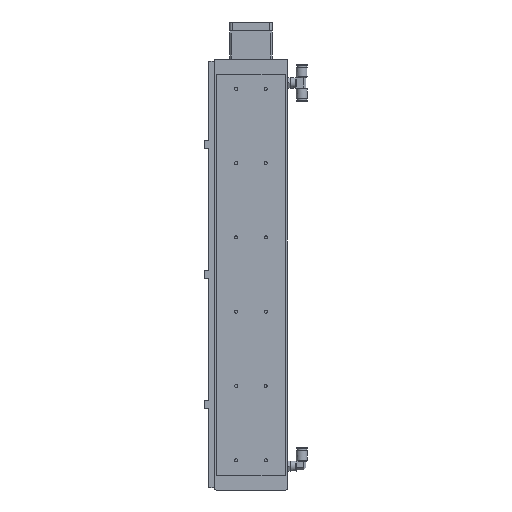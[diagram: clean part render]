
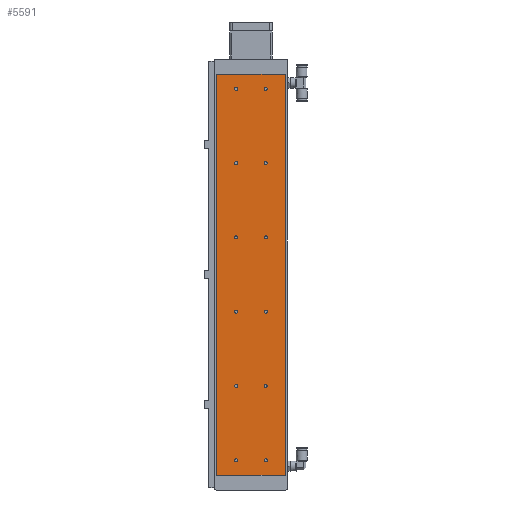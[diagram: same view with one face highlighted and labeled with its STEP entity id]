
A CAD part, front view. The second image highlights one B-rep face of the part: STEP entity #5591.
In plain terms, the highlighted planar face has unit normal (0, -1, 0).
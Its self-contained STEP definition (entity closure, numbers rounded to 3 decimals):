
#4419=CARTESIAN_POINT('',(22.067,0.0,40.));
#4420=VERTEX_POINT('',#4419);
#4421=CARTESIAN_POINT('',(20.,0.0,40.));
#4422=DIRECTION('',(0.0,1.0,0.0));
#4423=DIRECTION('',(1.0,0.0,0.0));
#4424=AXIS2_PLACEMENT_3D('',#4421,#4422,#4423);
#4425=CIRCLE('',#4424,2.067);
#4426=EDGE_CURVE('',#4420,#4420,#4425,.T.);
#4477=CARTESIAN_POINT('',(-17.933,0.0,40.));
#4478=VERTEX_POINT('',#4477);
#4479=CARTESIAN_POINT('',(-20.,0.0,40.));
#4480=DIRECTION('',(0.0,1.0,0.0));
#4481=DIRECTION('',(1.0,0.0,0.0));
#4482=AXIS2_PLACEMENT_3D('',#4479,#4480,#4481);
#4483=CIRCLE('',#4482,2.067);
#4484=EDGE_CURVE('',#4478,#4478,#4483,.T.);
#4535=CARTESIAN_POINT('',(22.067,0.0,540.0));
#4536=VERTEX_POINT('',#4535);
#4537=CARTESIAN_POINT('',(20.,0.0,540.0));
#4538=DIRECTION('',(0.0,1.0,0.0));
#4539=DIRECTION('',(1.0,0.0,0.0));
#4540=AXIS2_PLACEMENT_3D('',#4537,#4538,#4539);
#4541=CIRCLE('',#4540,2.067);
#4542=EDGE_CURVE('',#4536,#4536,#4541,.T.);
#4593=CARTESIAN_POINT('',(-17.933,0.0,540.0));
#4594=VERTEX_POINT('',#4593);
#4595=CARTESIAN_POINT('',(-20.,0.0,540.0));
#4596=DIRECTION('',(0.0,1.0,0.0));
#4597=DIRECTION('',(1.0,0.0,0.0));
#4598=AXIS2_PLACEMENT_3D('',#4595,#4596,#4597);
#4599=CIRCLE('',#4598,2.067);
#4600=EDGE_CURVE('',#4594,#4594,#4599,.T.);
#4651=CARTESIAN_POINT('',(-17.933,0.0,140.));
#4652=VERTEX_POINT('',#4651);
#4653=CARTESIAN_POINT('',(-20.,0.0,140.));
#4654=DIRECTION('',(0.0,1.0,0.0));
#4655=DIRECTION('',(1.0,0.0,0.0));
#4656=AXIS2_PLACEMENT_3D('',#4653,#4654,#4655);
#4657=CIRCLE('',#4656,2.067);
#4658=EDGE_CURVE('',#4652,#4652,#4657,.T.);
#4709=CARTESIAN_POINT('',(22.067,0.0,140.));
#4710=VERTEX_POINT('',#4709);
#4711=CARTESIAN_POINT('',(20.,0.0,140.));
#4712=DIRECTION('',(0.0,1.0,0.0));
#4713=DIRECTION('',(1.0,0.0,0.0));
#4714=AXIS2_PLACEMENT_3D('',#4711,#4712,#4713);
#4715=CIRCLE('',#4714,2.067);
#4716=EDGE_CURVE('',#4710,#4710,#4715,.T.);
#4767=CARTESIAN_POINT('',(-17.933,0.0,440.0));
#4768=VERTEX_POINT('',#4767);
#4769=CARTESIAN_POINT('',(-20.,0.0,440.0));
#4770=DIRECTION('',(0.0,1.0,0.0));
#4771=DIRECTION('',(1.0,0.0,0.0));
#4772=AXIS2_PLACEMENT_3D('',#4769,#4770,#4771);
#4773=CIRCLE('',#4772,2.067);
#4774=EDGE_CURVE('',#4768,#4768,#4773,.T.);
#4825=CARTESIAN_POINT('',(22.067,0.0,440.0));
#4826=VERTEX_POINT('',#4825);
#4827=CARTESIAN_POINT('',(20.,0.0,440.0));
#4828=DIRECTION('',(0.0,1.0,0.0));
#4829=DIRECTION('',(1.0,0.0,0.0));
#4830=AXIS2_PLACEMENT_3D('',#4827,#4828,#4829);
#4831=CIRCLE('',#4830,2.067);
#4832=EDGE_CURVE('',#4826,#4826,#4831,.T.);
#4883=CARTESIAN_POINT('',(-17.933,0.0,340.0));
#4884=VERTEX_POINT('',#4883);
#4885=CARTESIAN_POINT('',(-20.,0.0,340.0));
#4886=DIRECTION('',(0.0,1.0,0.0));
#4887=DIRECTION('',(1.0,0.0,0.0));
#4888=AXIS2_PLACEMENT_3D('',#4885,#4886,#4887);
#4889=CIRCLE('',#4888,2.067);
#4890=EDGE_CURVE('',#4884,#4884,#4889,.T.);
#4941=CARTESIAN_POINT('',(-17.933,0.0,240.0));
#4942=VERTEX_POINT('',#4941);
#4943=CARTESIAN_POINT('',(-20.,0.0,240.0));
#4944=DIRECTION('',(0.0,1.0,0.0));
#4945=DIRECTION('',(1.0,0.0,0.0));
#4946=AXIS2_PLACEMENT_3D('',#4943,#4944,#4945);
#4947=CIRCLE('',#4946,2.067);
#4948=EDGE_CURVE('',#4942,#4942,#4947,.T.);
#4999=CARTESIAN_POINT('',(22.067,0.0,240.0));
#5000=VERTEX_POINT('',#4999);
#5001=CARTESIAN_POINT('',(20.,0.0,240.0));
#5002=DIRECTION('',(0.0,1.0,0.0));
#5003=DIRECTION('',(1.0,0.0,0.0));
#5004=AXIS2_PLACEMENT_3D('',#5001,#5002,#5003);
#5005=CIRCLE('',#5004,2.067);
#5006=EDGE_CURVE('',#5000,#5000,#5005,.T.);
#5057=CARTESIAN_POINT('',(22.067,0.0,340.0));
#5058=VERTEX_POINT('',#5057);
#5059=CARTESIAN_POINT('',(20.,0.0,340.0));
#5060=DIRECTION('',(0.0,1.0,0.0));
#5061=DIRECTION('',(1.0,0.0,0.0));
#5062=AXIS2_PLACEMENT_3D('',#5059,#5060,#5061);
#5063=CIRCLE('',#5062,2.067);
#5064=EDGE_CURVE('',#5058,#5058,#5063,.T.);
#5466=CARTESIAN_POINT('',(46.,0.0,20.));
#5467=VERTEX_POINT('',#5466);
#5474=CARTESIAN_POINT('',(-46.,0.0,20.));
#5475=VERTEX_POINT('',#5474);
#5476=CARTESIAN_POINT('',(-46.,0.0,20.));
#5477=DIRECTION('',(1.0,0.0,0.0));
#5478=VECTOR('',#5477,92.);
#5479=LINE('',#5476,#5478);
#5480=EDGE_CURVE('',#5475,#5467,#5479,.T.);
#5497=CARTESIAN_POINT('',(-46.,0.0,560.0));
#5498=VERTEX_POINT('',#5497);
#5505=CARTESIAN_POINT('',(46.,0.0,560.0));
#5506=VERTEX_POINT('',#5505);
#5507=CARTESIAN_POINT('',(46.,0.0,560.0));
#5508=DIRECTION('',(-1.0,0.0,0.0));
#5509=VECTOR('',#5508,92.);
#5510=LINE('',#5507,#5509);
#5511=EDGE_CURVE('',#5506,#5498,#5510,.T.);
#5528=CARTESIAN_POINT('',(-46.,0.0,20.));
#5529=DIRECTION('',(0.0,0.0,1.0));
#5530=VECTOR('',#5529,540.0);
#5531=LINE('',#5528,#5530);
#5532=EDGE_CURVE('',#5475,#5498,#5531,.T.);
#5539=CARTESIAN_POINT('',(46.,0.0,0.0));
#5540=DIRECTION('',(0.0,-1.0,0.0));
#5541=DIRECTION('',(0.0,0.0,-1.0));
#5542=AXIS2_PLACEMENT_3D('',#5539,#5540,#5541);
#5543=PLANE('',#5542);
#5544=ORIENTED_EDGE('',*,*,#5480,.T.);
#5545=CARTESIAN_POINT('',(46.,0.0,20.));
#5546=DIRECTION('',(0.0,0.0,1.0));
#5547=VECTOR('',#5546,540.0);
#5548=LINE('',#5545,#5547);
#5549=EDGE_CURVE('',#5467,#5506,#5548,.T.);
#5550=ORIENTED_EDGE('',*,*,#5549,.T.);
#5551=ORIENTED_EDGE('',*,*,#5511,.T.);
#5552=ORIENTED_EDGE('',*,*,#5532,.F.);
#5553=EDGE_LOOP('',(#5544,#5550,#5551,#5552));
#5554=FACE_OUTER_BOUND('',#5553,.T.);
#5555=ORIENTED_EDGE('',*,*,#4426,.T.);
#5556=EDGE_LOOP('',(#5555));
#5557=FACE_BOUND('',#5556,.T.);
#5558=ORIENTED_EDGE('',*,*,#4484,.T.);
#5559=EDGE_LOOP('',(#5558));
#5560=FACE_BOUND('',#5559,.T.);
#5561=ORIENTED_EDGE('',*,*,#4542,.T.);
#5562=EDGE_LOOP('',(#5561));
#5563=FACE_BOUND('',#5562,.T.);
#5564=ORIENTED_EDGE('',*,*,#4600,.T.);
#5565=EDGE_LOOP('',(#5564));
#5566=FACE_BOUND('',#5565,.T.);
#5567=ORIENTED_EDGE('',*,*,#4658,.T.);
#5568=EDGE_LOOP('',(#5567));
#5569=FACE_BOUND('',#5568,.T.);
#5570=ORIENTED_EDGE('',*,*,#4716,.T.);
#5571=EDGE_LOOP('',(#5570));
#5572=FACE_BOUND('',#5571,.T.);
#5573=ORIENTED_EDGE('',*,*,#4774,.T.);
#5574=EDGE_LOOP('',(#5573));
#5575=FACE_BOUND('',#5574,.T.);
#5576=ORIENTED_EDGE('',*,*,#4832,.T.);
#5577=EDGE_LOOP('',(#5576));
#5578=FACE_BOUND('',#5577,.T.);
#5579=ORIENTED_EDGE('',*,*,#4890,.T.);
#5580=EDGE_LOOP('',(#5579));
#5581=FACE_BOUND('',#5580,.T.);
#5582=ORIENTED_EDGE('',*,*,#4948,.T.);
#5583=EDGE_LOOP('',(#5582));
#5584=FACE_BOUND('',#5583,.T.);
#5585=ORIENTED_EDGE('',*,*,#5006,.T.);
#5586=EDGE_LOOP('',(#5585));
#5587=FACE_BOUND('',#5586,.T.);
#5588=ORIENTED_EDGE('',*,*,#5064,.T.);
#5589=EDGE_LOOP('',(#5588));
#5590=FACE_BOUND('',#5589,.T.);
#5591=ADVANCED_FACE('',(#5554,#5557,#5560,#5563,#5566,#5569,#5572,#5575,#5578,#5581,#5584,#5587,#5590),#5543,.T.);
